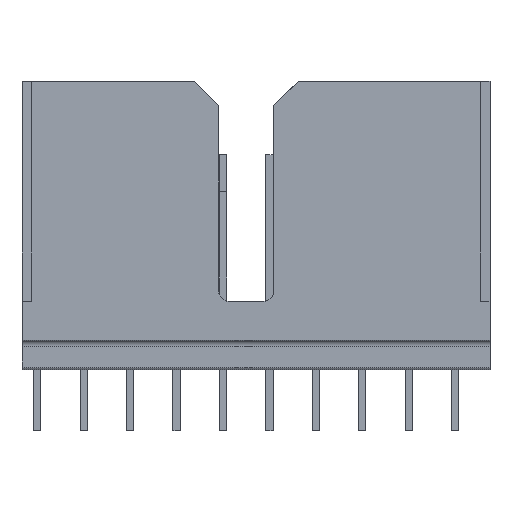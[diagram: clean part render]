
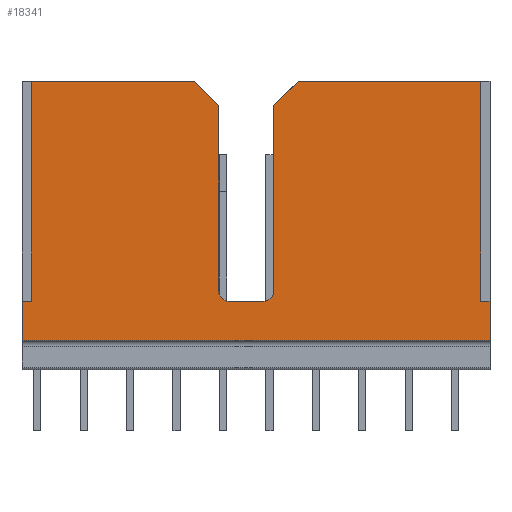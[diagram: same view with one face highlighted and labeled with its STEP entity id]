
A CAD part, front view. The second image highlights one B-rep face of the part: STEP entity #18341.
In plain terms, the highlighted planar face has unit normal (0, -1, 0).
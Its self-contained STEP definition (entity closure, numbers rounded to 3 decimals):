
#166=DIRECTION('',(1.,0.,0.));
#167=VECTOR('',#166,6.67);
#168=CARTESIAN_POINT('',(-9.195,-10.1,0.));
#169=LINE('',#168,#167);
#218=DIRECTION('',(1.,0.,0.));
#219=VECTOR('',#218,7.47);
#220=CARTESIAN_POINT('',(1.725,-10.1,0.));
#221=LINE('',#220,#219);
#279=DIRECTION('',(0.,0.,-1.));
#280=VECTOR('',#279,1.6);
#281=CARTESIAN_POINT('',(9.575,-10.1,-9.));
#282=LINE('',#281,#280);
#2410=DIRECTION('',(0.,0.,-1.));
#2411=VECTOR('',#2410,7.6);
#2412=CARTESIAN_POINT('',(-1.525,-10.1,-1.));
#2413=LINE('',#2412,#2411);
#2414=DIRECTION('',(1.,0.,0.));
#2415=VECTOR('',#2414,1.45);
#2416=CARTESIAN_POINT('',(-1.125,-10.1,-9.));
#2417=LINE('',#2416,#2415);
#2418=DIRECTION('',(0.,0.,-1.));
#2419=VECTOR('',#2418,7.6);
#2420=CARTESIAN_POINT('',(0.725,-10.1,-1.));
#2421=LINE('',#2420,#2419);
#2422=DIRECTION('',(-0.707,0.,-0.707));
#2423=VECTOR('',#2422,1.414);
#2424=CARTESIAN_POINT('',(1.725,-10.1,0.));
#2425=LINE('',#2424,#2423);
#2426=DIRECTION('',(0.,0.,-1.));
#2427=VECTOR('',#2426,9.);
#2428=CARTESIAN_POINT('',(9.195,-10.1,0.));
#2429=LINE('',#2428,#2427);
#2430=DIRECTION('',(1.,0.,0.));
#2431=VECTOR('',#2430,0.38);
#2432=CARTESIAN_POINT('',(9.195,-10.1,-9.));
#2433=LINE('',#2432,#2431);
#2434=DIRECTION('',(1.,0.,0.));
#2435=VECTOR('',#2434,19.15);
#2436=CARTESIAN_POINT('',(-9.575,-10.1,-10.6));
#2437=LINE('',#2436,#2435);
#2438=DIRECTION('',(0.,0.,-1.));
#2439=VECTOR('',#2438,1.6);
#2440=CARTESIAN_POINT('',(-9.575,-10.1,-9.));
#2441=LINE('',#2440,#2439);
#2442=DIRECTION('',(1.,0.,0.));
#2443=VECTOR('',#2442,0.38);
#2444=CARTESIAN_POINT('',(-9.575,-10.1,-9.));
#2445=LINE('',#2444,#2443);
#2446=DIRECTION('',(0.,0.,-1.));
#2447=VECTOR('',#2446,9.);
#2448=CARTESIAN_POINT('',(-9.195,-10.1,0.));
#2449=LINE('',#2448,#2447);
#2450=DIRECTION('',(-0.707,0.,0.707));
#2451=VECTOR('',#2450,1.414);
#2452=CARTESIAN_POINT('',(-1.525,-10.1,-1.));
#2453=LINE('',#2452,#2451);
#2563=CARTESIAN_POINT('',(-1.125,-10.1,-8.6));
#2564=DIRECTION('',(0.,1.,0.));
#2565=DIRECTION('',(0.,0.,-1.));
#2566=AXIS2_PLACEMENT_3D('',#2563,#2564,#2565);
#2599=CARTESIAN_POINT('',(0.325,-10.1,-8.6));
#2600=DIRECTION('',(0.,1.,0.));
#2601=DIRECTION('',(1.,0.,0.));
#2602=AXIS2_PLACEMENT_3D('',#2599,#2600,#2601);
#12606=CARTESIAN_POINT('',(9.575,-10.1,-9.));
#12608=VERTEX_POINT('',#12606);
#12698=CARTESIAN_POINT('',(-9.575,-10.1,-10.6));
#12699=CARTESIAN_POINT('',(9.575,-10.1,-10.6));
#12700=VERTEX_POINT('',#12698);
#12701=VERTEX_POINT('',#12699);
#12740=CARTESIAN_POINT('',(-9.195,-10.1,0.));
#12742=VERTEX_POINT('',#12740);
#12750=CARTESIAN_POINT('',(9.195,-10.1,0.));
#12751=VERTEX_POINT('',#12750);
#12753=CARTESIAN_POINT('',(-9.575,-10.1,-9.));
#12755=VERTEX_POINT('',#12753);
#12756=CARTESIAN_POINT('',(-9.195,-10.1,-9.));
#12757=VERTEX_POINT('',#12756);
#12758=CARTESIAN_POINT('',(9.195,-10.1,-9.));
#12759=VERTEX_POINT('',#12758);
#12866=CARTESIAN_POINT('',(-1.525,-10.1,-1.));
#12867=CARTESIAN_POINT('',(-2.525,-10.1,0.));
#12868=VERTEX_POINT('',#12866);
#12869=VERTEX_POINT('',#12867);
#12870=CARTESIAN_POINT('',(1.725,-10.1,0.));
#12871=CARTESIAN_POINT('',(0.725,-10.1,-1.));
#12872=VERTEX_POINT('',#12870);
#12873=VERTEX_POINT('',#12871);
#12874=CARTESIAN_POINT('',(0.325,-10.1,-9.));
#12875=VERTEX_POINT('',#12874);
#12876=CARTESIAN_POINT('',(0.725,-10.1,-8.6));
#12877=VERTEX_POINT('',#12876);
#12878=CARTESIAN_POINT('',(-1.525,-10.1,-8.6));
#12879=VERTEX_POINT('',#12878);
#12880=CARTESIAN_POINT('',(-1.125,-10.1,-9.));
#12881=VERTEX_POINT('',#12880);
#18310=CARTESIAN_POINT('',(-9.575,-10.1,0.));
#18311=DIRECTION('',(0.,-1.,0.));
#18312=DIRECTION('',(1.,0.,0.));
#18313=AXIS2_PLACEMENT_3D('',#18310,#18311,#18312);
#18314=PLANE('',#18313);
#18316=ORIENTED_EDGE('',*,*,#18315,.T.);
#18318=ORIENTED_EDGE('',*,*,#18317,.F.);
#18319=ORIENTED_EDGE('',*,*,#16978,.T.);
#18321=ORIENTED_EDGE('',*,*,#18320,.F.);
#18323=ORIENTED_EDGE('',*,*,#18322,.F.);
#18325=ORIENTED_EDGE('',*,*,#18324,.F.);
#18326=ORIENTED_EDGE('',*,*,#16801,.T.);
#18328=ORIENTED_EDGE('',*,*,#18327,.T.);
#18329=ORIENTED_EDGE('',*,*,#16916,.T.);
#18330=ORIENTED_EDGE('',*,*,#16868,.T.);
#18331=ORIENTED_EDGE('',*,*,#18304,.F.);
#18332=ORIENTED_EDGE('',*,*,#18246,.F.);
#18333=ORIENTED_EDGE('',*,*,#16936,.T.);
#18335=ORIENTED_EDGE('',*,*,#18334,.F.);
#18336=ORIENTED_EDGE('',*,*,#16759,.T.);
#18338=ORIENTED_EDGE('',*,*,#18337,.F.);
#18339=EDGE_LOOP('',(#18316,#18318,#18319,#18321,#18323,#18325,#18326,#18328,
#18329,#18330,#18331,#18332,#18333,#18335,#18336,#18338));
#18340=FACE_OUTER_BOUND('',#18339,.F.);
#2567=CIRCLE('',#2566,0.4);
#2603=CIRCLE('',#2602,0.4);
#16759=EDGE_CURVE('',#12742,#12869,#169,.T.);
#16801=EDGE_CURVE('',#12872,#12751,#221,.T.);
#16868=EDGE_CURVE('',#12608,#12701,#282,.T.);
#16916=EDGE_CURVE('',#12759,#12608,#2433,.T.);
#16936=EDGE_CURVE('',#12755,#12757,#2445,.T.);
#16978=EDGE_CURVE('',#12881,#12875,#2417,.T.);
#18246=EDGE_CURVE('',#12755,#12700,#2441,.T.);
#18304=EDGE_CURVE('',#12700,#12701,#2437,.T.);
#18315=EDGE_CURVE('',#12868,#12879,#2413,.T.);
#18317=EDGE_CURVE('',#12881,#12879,#2567,.T.);
#18320=EDGE_CURVE('',#12877,#12875,#2603,.T.);
#18322=EDGE_CURVE('',#12873,#12877,#2421,.T.);
#18324=EDGE_CURVE('',#12872,#12873,#2425,.T.);
#18327=EDGE_CURVE('',#12751,#12759,#2429,.T.);
#18334=EDGE_CURVE('',#12742,#12757,#2449,.T.);
#18337=EDGE_CURVE('',#12868,#12869,#2453,.T.);
#18341=ADVANCED_FACE('',(#18340),#18314,.T.);
